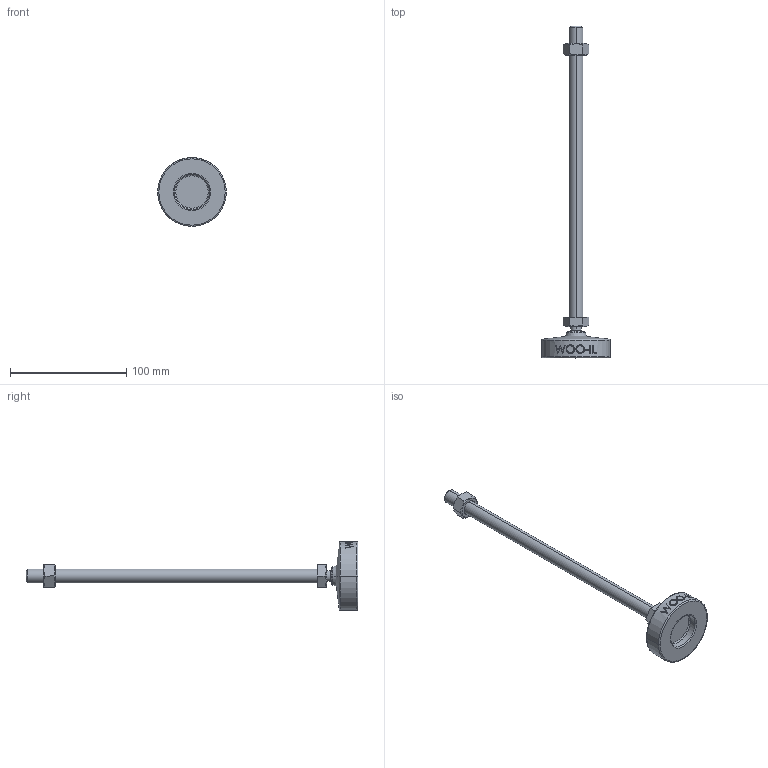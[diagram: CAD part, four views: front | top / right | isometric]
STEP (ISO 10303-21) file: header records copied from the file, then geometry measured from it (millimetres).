
FILE_DESCRIPTION (( 'STEP AP214' ), '1' );
FILE_NAME ('MFN59-M12-250.step', '2021-01-19T06:28:21', ( '' ), ( '' ), 'SwSTEP 2.0', 'SolidWorks 2019', '' );
FILE_SCHEMA (( 'AUTOMOTIVE_DESIGN' ));
Length unit declared in the file: millimetre
Products named in the file (2): MFN59-M12-250
Bounding box: 59 x 285 x 59 mm (x, y, z)
Volume: 75503.7 mm3; surface area: 20976 mm2
Topology: 2 solids, 2 shells, 109 faces, 253 edges, 160 vertices
Faces by surface type: plane 47, cone 18, cylinder 18, bspline 16, torus 8, sphere 2
Entity records: 4619 total; most frequent: CARTESIAN_POINT 2194, ORIENTED_EDGE 506, DIRECTION 461, EDGE_CURVE 253, AXIS2_PLACEMENT_3D 179, VERTEX_POINT 160, EDGE_LOOP 123, FACE_OUTER_BOUND 109
